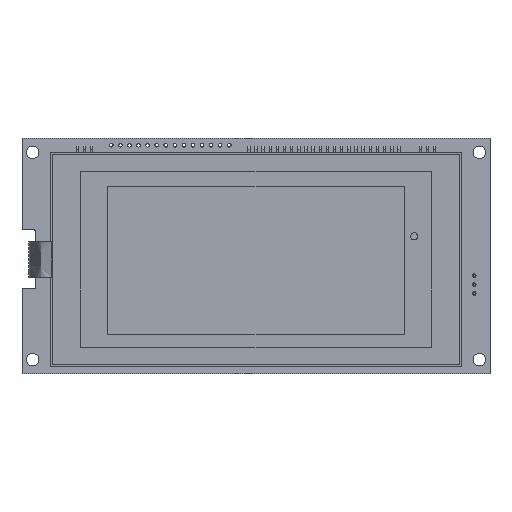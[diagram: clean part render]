
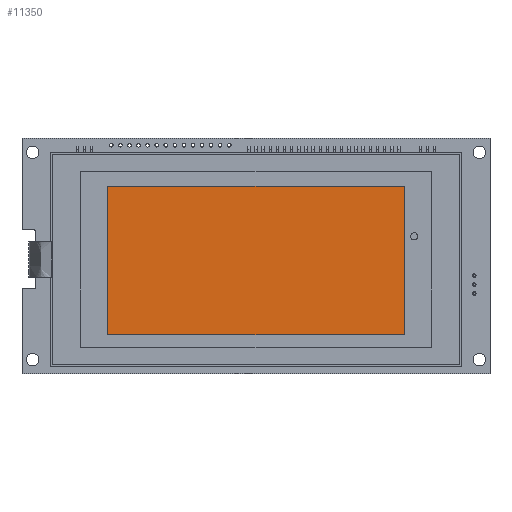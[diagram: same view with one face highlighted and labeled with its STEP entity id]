
A CAD part, top view. The second image highlights one B-rep face of the part: STEP entity #11350.
In plain terms, the highlighted planar face has unit normal (0, 0, 1).
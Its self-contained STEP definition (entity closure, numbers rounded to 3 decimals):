
#2735=DIRECTION('',(0.,-1.,0.));
#2736=VECTOR('',#2735,41.5);
#2737=CARTESIAN_POINT('',(-41.55,19.51,6.35));
#2738=LINE('',#2737,#2736);
#2739=DIRECTION('',(-1.,0.,0.));
#2740=VECTOR('',#2739,83.1);
#2741=CARTESIAN_POINT('',(41.55,19.51,6.35));
#2742=LINE('',#2741,#2740);
#2743=DIRECTION('',(0.,1.,0.));
#2744=VECTOR('',#2743,41.5);
#2745=CARTESIAN_POINT('',(41.55,-21.99,6.35));
#2746=LINE('',#2745,#2744);
#2747=DIRECTION('',(1.,0.,0.));
#2748=VECTOR('',#2747,83.1);
#2749=CARTESIAN_POINT('',(-41.55,-21.99,6.35));
#2750=LINE('',#2749,#2748);
#6517=CARTESIAN_POINT('',(-41.55,19.51,6.35));
#6518=CARTESIAN_POINT('',(-41.55,-21.99,6.35));
#6519=VERTEX_POINT('',#6517);
#6520=VERTEX_POINT('',#6518);
#6521=CARTESIAN_POINT('',(41.55,-21.99,6.35));
#6522=VERTEX_POINT('',#6521);
#6523=CARTESIAN_POINT('',(41.55,19.51,6.35));
#6524=VERTEX_POINT('',#6523);
#11339=CARTESIAN_POINT('',(0.,0.,6.35));
#11340=DIRECTION('',(0.,0.,1.));
#11341=DIRECTION('',(1.,0.,0.));
#11342=AXIS2_PLACEMENT_3D('',#11339,#11340,#11341);
#11343=PLANE('',#11342);
#11344=ORIENTED_EDGE('',*,*,#11291,.F.);
#11345=ORIENTED_EDGE('',*,*,#11306,.F.);
#11346=ORIENTED_EDGE('',*,*,#11320,.F.);
#11347=ORIENTED_EDGE('',*,*,#11333,.F.);
#11348=EDGE_LOOP('',(#11344,#11345,#11346,#11347));
#11349=FACE_OUTER_BOUND('',#11348,.F.);
#11291=EDGE_CURVE('',#6519,#6520,#2738,.T.);
#11306=EDGE_CURVE('',#6524,#6519,#2742,.T.);
#11320=EDGE_CURVE('',#6522,#6524,#2746,.T.);
#11333=EDGE_CURVE('',#6520,#6522,#2750,.T.);
#11350=ADVANCED_FACE('',(#11349),#11343,.T.);
